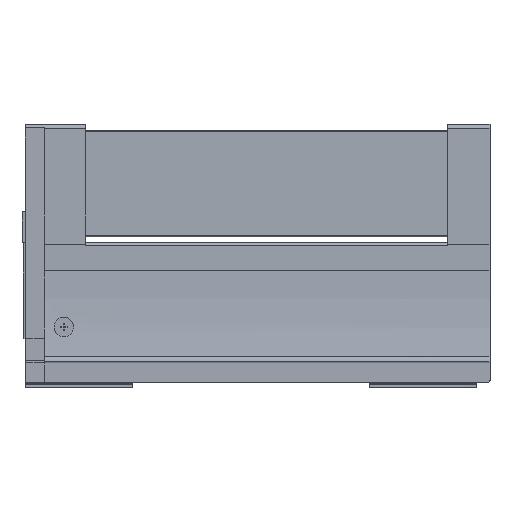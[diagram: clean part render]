
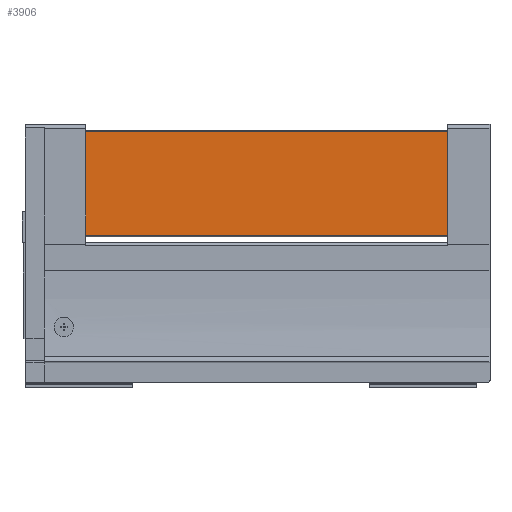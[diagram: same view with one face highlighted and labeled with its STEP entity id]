
A CAD part, left-side view. The second image highlights one B-rep face of the part: STEP entity #3906.
In plain terms, the highlighted planar face has unit normal (-1, 0, 0).
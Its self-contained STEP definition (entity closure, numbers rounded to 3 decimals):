
#684 = CARTESIAN_POINT ( 'NONE',  ( -9.6, 339.3, 174.798 ) ) ;
#685 = DIRECTION ( 'NONE',  ( 0., 0., -1. ) ) ;
#736 = CARTESIAN_POINT ( 'NONE',  ( -9.6, 35.3, 174.798 ) ) ;
#737 = DIRECTION ( 'NONE',  ( 0., 0., -1. ) ) ;
#746 = CARTESIAN_POINT ( 'NONE',  ( -9.6, 495., 174.798 ) ) ;
#747 = DIRECTION ( 'NONE',  ( 0., -1., 0. ) ) ;
#1129 = CARTESIAN_POINT ( 'NONE',  ( -9.6, 339.3, 174.798 ) ) ;
#1174 = CARTESIAN_POINT ( 'NONE',  ( -9.6, 35.3, 174.798 ) ) ;
#1219 = CARTESIAN_POINT ( 'NONE',  ( -9.6, 35.3, 87.298 ) ) ;
#1512 = PLANE ( 'NONE',  #4805 ) ;
#1515 = CARTESIAN_POINT ( 'NONE',  ( -9.6, 495., 174.798 ) ) ;
#1521 = DIRECTION ( 'NONE',  ( -1., 0., 0. ) ) ;
#1522 = DIRECTION ( 'NONE',  ( 0., 0., -1. ) ) ;
#1826 = CARTESIAN_POINT ( 'NONE',  ( -9.6, 339.3, 87.298 ) ) ;
#2141 = CARTESIAN_POINT ( 'NONE',  ( -9.6, 495., 87.298 ) ) ;
#2142 = DIRECTION ( 'NONE',  ( 0., -1., 0. ) ) ;
#2344 = VERTEX_POINT ( 'NONE', #1129 ) ;
#2389 = VERTEX_POINT ( 'NONE', #1174 ) ;
#2722 = EDGE_LOOP ( 'NONE', ( #4413, #4412, #4411, #4410 ) ) ;
#2895 = FACE_OUTER_BOUND ( 'NONE', #2722, .T. ) ;
#3247 = LINE ( 'NONE', #2141, #3248 ) ;
#3248 = VECTOR ( 'NONE', #2142, 1000. ) ;
#3621 = LINE ( 'NONE', #684, #3622 ) ;
#3622 = VECTOR ( 'NONE', #685, 1000. ) ;
#3668 = LINE ( 'NONE', #736, #3669 ) ;
#3669 = VECTOR ( 'NONE', #737, 1000. ) ;
#3678 = LINE ( 'NONE', #746, #3679 ) ;
#3679 = VECTOR ( 'NONE', #747, 1000. ) ;
#3742 = VERTEX_POINT ( 'NONE', #1219 ) ;
#3906 = ADVANCED_FACE ( 'NONE', ( #2895 ), #1512, .T. ) ;
#4410 = ORIENTED_EDGE ( 'NONE', *, *, #4939, .F. ) ;
#4411 = ORIENTED_EDGE ( 'NONE', *, *, #4934, .F. ) ;
#4412 = ORIENTED_EDGE ( 'NONE', *, *, #4648, .T. ) ;
#4413 = ORIENTED_EDGE ( 'NONE', *, *, #4908, .T. ) ;
#4443 = VERTEX_POINT ( 'NONE', #1826 ) ;
#4648 = EDGE_CURVE ( 'NONE', #4443, #3742, #3247, .T. ) ;
#4805 = AXIS2_PLACEMENT_3D ( 'NONE', #1515, #1521, #1522 ) ;
#4908 = EDGE_CURVE ( 'NONE', #2344, #4443, #3621, .T. ) ;
#4934 = EDGE_CURVE ( 'NONE', #2389, #3742, #3668, .T. ) ;
#4939 = EDGE_CURVE ( 'NONE', #2344, #2389, #3678, .T. ) ;
